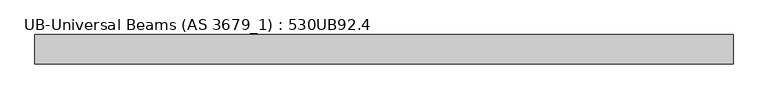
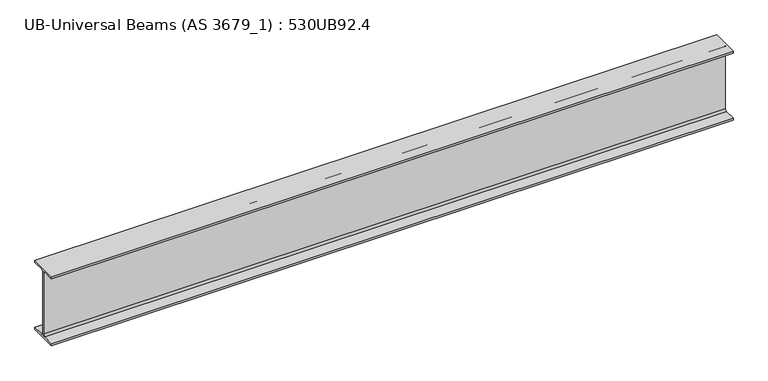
"""IFC4 building model written with IfcOpenShell, lengths in millimetres: beam geometry, UB-Universal Beams (AS 3679_1) : 530UB92.4."""

from ifc_helpers import new_model, si_unit, point, frame, frame_2d, origin, place, context, project, spatial, polyline, circle_curve, trimmed, segment, composite_curve, outline, extrude, source, transform, mapped, element, save


def ub_universal_beams_as_3679_1_530ub92_4_23cbc2f6(model_context):
    return source(origin(), model_context, "Body", "SweptSolid", [
        extrude(outline(composite_curve([segment(polyline([(104.5, -250.9), (104.5, -266.5), (-104.5, -266.5), (-104.5, -250.9), (-19.1, -250.9)]), True, "CONTINUOUS"), segment(trimmed(circle_curve(frame_2d((-19.1, -236.9)), 14.0), [point((-19.1, -250.9))], [point((-5.1, -236.9))], True, "CARTESIAN"), True, "CONTINUOUS"), segment(polyline([(-5.1, -236.9), (-5.1, 236.9)]), True, "CONTINUOUS"), segment(trimmed(circle_curve(frame_2d((-19.1, 236.9)), 14.0), [point((-5.1, 236.9))], [point((-19.1, 250.9))], True, "CARTESIAN"), True, "CONTINUOUS"), segment(polyline([(-19.1, 250.9), (-104.5, 250.9), (-104.5, 266.5), (104.5, 266.5), (104.5, 250.9), (19.1, 250.9)]), True, "CONTINUOUS"), segment(trimmed(circle_curve(frame_2d((19.1, 236.9)), 14.0), [point((19.1, 250.9))], [point((5.1, 236.9))], True, "CARTESIAN"), True, "CONTINUOUS"), segment(polyline([(5.1, 236.9), (5.1, -236.9)]), True, "CONTINUOUS"), segment(trimmed(circle_curve(frame_2d((19.1, -236.9)), 14.0), [point((5.1, -236.9))], [point((19.1, -250.9))], True, "CARTESIAN"), True, "CONTINUOUS"), segment(polyline([(19.1, -250.9), (104.5, -250.9)]), True, "CONTINUOUS")], self_intersect=False)), frame((-2451.6, 0.0, 0.0), z_axis=(1.0, 0.0, 0.0), x_axis=(0.0, 1.0, 0.0)), (0.0, 0.0, 1.0), 4977.8),
    ])


if __name__ == "__main__":
    model = new_model("IFC4")
    model_context = context("Model", 3, world=origin())
    ifc_project = project(units=[si_unit("LENGTHUNIT", "METRE", prefix="MILLI")], contexts=[model_context])
    site = spatial("IfcSite", under=ifc_project)
    building = spatial("IfcBuilding", under=site)
    placement = place(None, origin())
    ub_universal_beams_as_3679_1_530ub92_4_shape = ub_universal_beams_as_3679_1_530ub92_4_23cbc2f6(model_context)
    element("IfcBeam", 1, ObjectType="UB-Universal Beams (AS 3679_1) : 530UB92.4", at=placement, inside=building, context=model_context, shape_type="MappedRepresentation", body=[
        mapped(ub_universal_beams_as_3679_1_530ub92_4_shape, transform((0.0, 0.0, 0.0), x_axis=(1.0, 0.0, 0.0), y_axis=(0.0, 1.0, 0.0), z_axis=(0.0, 0.0, 1.0))),
    ])
    save(model, "model.ifc")
